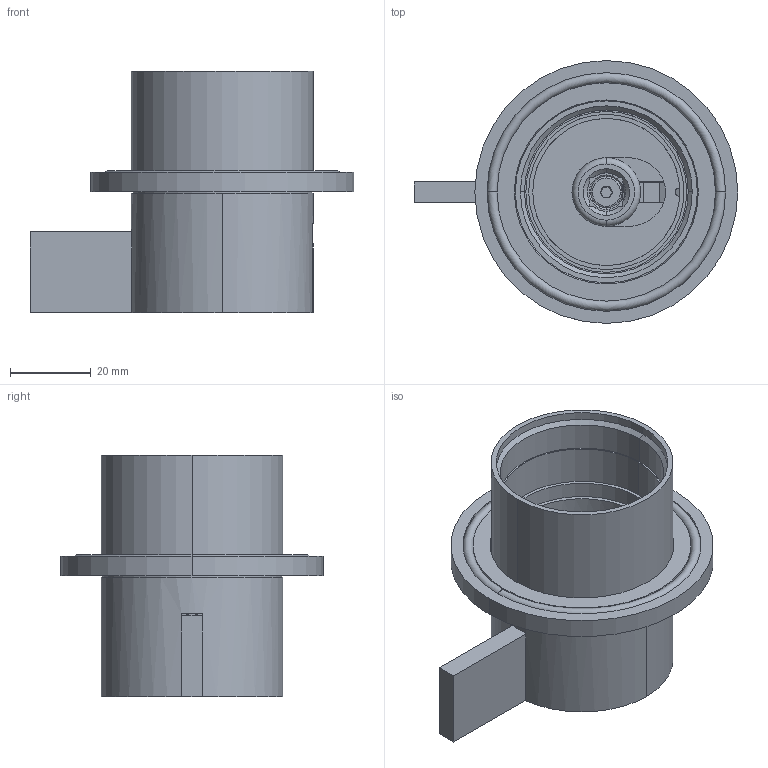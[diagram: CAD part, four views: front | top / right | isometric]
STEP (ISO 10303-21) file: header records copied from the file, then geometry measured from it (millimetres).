
FILE_DESCRIPTION((''),'2;1');
FILE_NAME('ASM0001_ASM','2019-12-07T',('Admin'),(''),'PRO/ENGINEER BY PARAMETRIC TECHNOLOGY CORPORATION, 2015240','PRO/ENGINEER BY PARAMETRIC TECHNOLOGY CORPORATION, 2015240','');
FILE_SCHEMA(('CONFIG_CONTROL_DESIGN'));
Length unit declared in the file: millimetre
Products named in the file (14): PRT0002; F284-456_NEW_VERSION_OF_THE_PLA; PRT0001; PRT0003; 36X1-8; PRT0014; PRT0037; M4X6; M4X4; PRT0013; ASM0002_ASM; 49X2; 59X2-5; ASM0001_ASM
Assembly tree (14 placements, depth 3):
  ASM0001_ASM
    PRT0002
    F284-456_NEW_VERSION_OF_THE_PLA
    PRT0001
    PRT0003
    36X1-8
    ASM0002_ASM
      PRT0014
      PRT0037
      M4X6  x2
      M4X4
      PRT0013
    49X2
    59X2-5
Bounding box: 80 x 65 x 59.7 mm (x, y, z)
Volume: 49121.2 mm3; surface area: 45706.1 mm2
Topology: 13 solids, 13 shells, 450 faces, 1148 edges, 717 vertices
Faces by surface type: cylinder 178, plane 143, bspline 62, torus 40, cone 27
Entity records: 21676 total; most frequent: CARTESIAN_POINT 11767, ORIENTED_EDGE 2086, DIRECTION 1908, EDGE_CURVE 1043, AXIS2_PLACEMENT_3D 723, VERTEX_POINT 657, VECTOR 462, LINE 462
